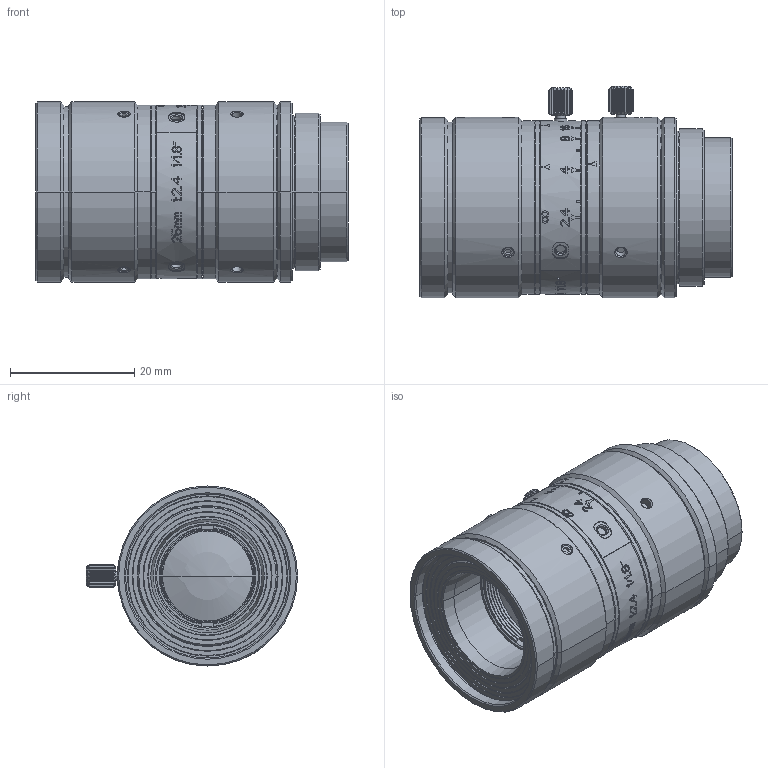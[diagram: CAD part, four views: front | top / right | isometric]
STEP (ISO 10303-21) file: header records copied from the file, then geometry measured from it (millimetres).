
FILE_DESCRIPTION((''),'2;1');
FILE_NAME('MVL-HF2524M-10MP','2020-07-10T15:07:24',('dihaoping'),(''),'CREO PARAMETRIC BY PTC INC, 2017260','CREO PARAMETRIC BY PTC INC, 2017260','');
FILE_SCHEMA(('CONFIG_CONTROL_DESIGN'));
Length unit declared in the file: millimetre
Products named in the file (1): MVL-HF2524M-10MP
Bounding box: 50.25 x 34 x 29 mm (x, y, z)
Volume: 26488.7 mm3; surface area: 9594 mm2
Topology: 1 solids, 7 shells, 1220 faces, 3348 edges, 2228 vertices
Faces by surface type: plane 589, bspline 264, cylinder 248, cone 111, torus 6, sphere 2
Entity records: 47564 total; most frequent: CARTESIAN_POINT 18914, ORIENTED_EDGE 6692, DIRECTION 4794, EDGE_CURVE 3346, VERTEX_POINT 2228, AXIS2_PLACEMENT_3D 1688, VECTOR 1418, LINE 1418
